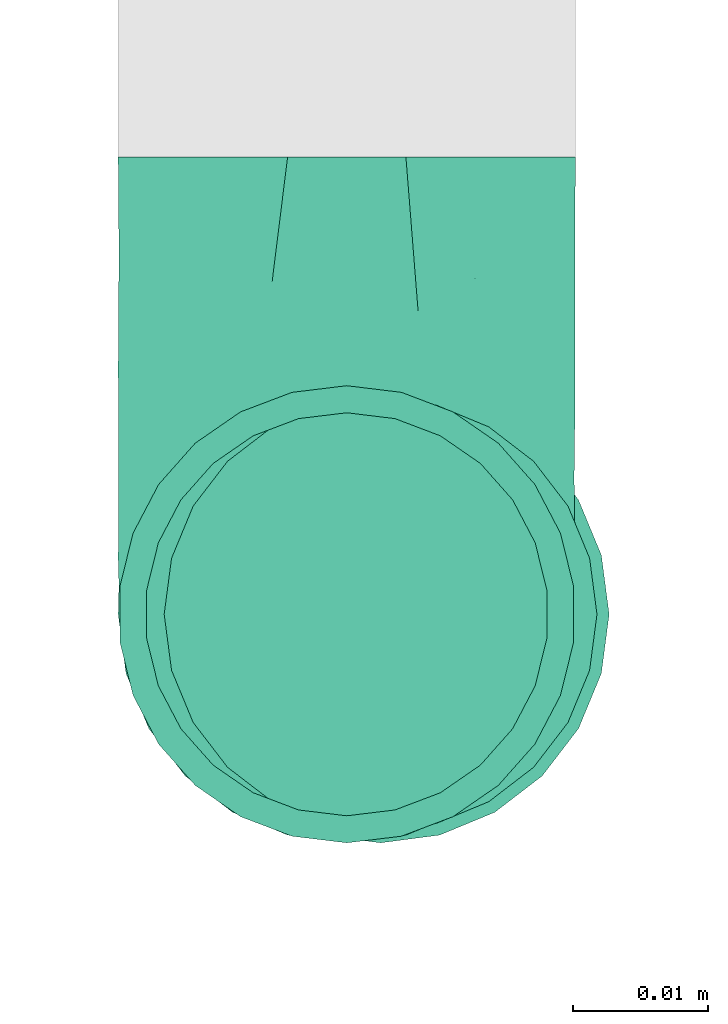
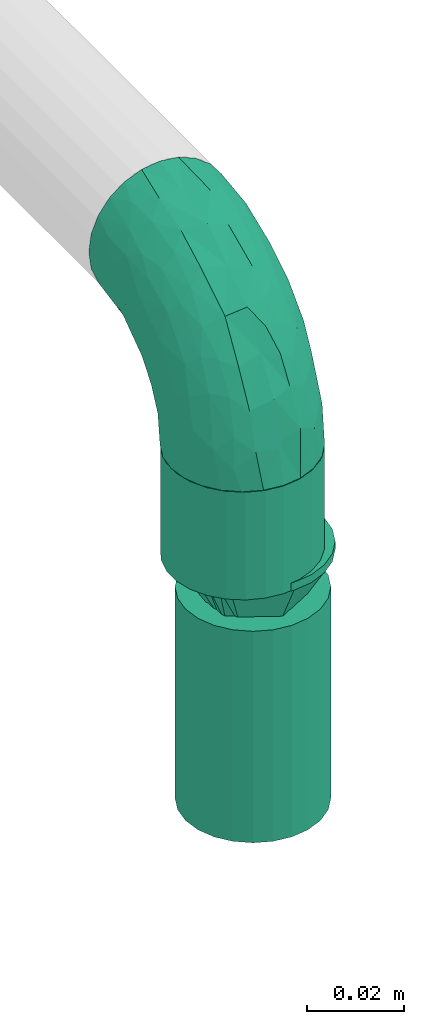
# One storey, part 7 of 32: 2 flow fittings, 1 flow segment, 1 flow terminal.
"""IFC2X3 building model written with IfcOpenShell, lengths in millimetres."""

from ifc_helpers import new_model, entity, si_unit, converted_unit, derived_unit, direction, frame, origin_with_axes, origin_2d_with_axis, place, context, subcontext, project, spatial, hollow_circle, extrude, open_shell, surface_model, source, transform, mapped, type_object, element, save


model = new_model("IFC2X3")

# Units and contexts
model_context = context("Model", 3, precision=0.01, world=frame((0.0, 4.29681676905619e-09, 0.0)), true_north=direction((4.01073788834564e-13, 1.0)))
plan_context = context("Plan", 3, precision=0.01, world=frame((0.0, 4.29681676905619e-09, 0.0)), true_north=direction((4.01073788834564e-13, 1.0)))
body_context = subcontext(model_context, "Body", "Model", "MODEL_VIEW")
ifc_project = project(units=[converted_unit("PLANEANGLEUNIT", "DEGREE", entity("IfcPositiveLengthMeasure", 0.0174532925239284), si_unit("PLANEANGLEUNIT", "RADIAN"), dimensions=[0, 0, 0, 0, 0, 0, 0]), si_unit("AREAUNIT", "SQUARE_METRE"), si_unit("LENGTHUNIT", "METRE", prefix="MILLI"), si_unit("MASSUNIT", "GRAM", prefix="KILO"), si_unit("POWERUNIT", "WATT"), si_unit("PRESSUREUNIT", "PASCAL", prefix="KILO"), si_unit("FORCEUNIT", "NEWTON", prefix="KILO"), si_unit("ELECTRICVOLTAGEUNIT", "VOLT"), si_unit("ELECTRICCURRENTUNIT", "AMPERE"), si_unit("THERMODYNAMICTEMPERATUREUNIT", "DEGREE_CELSIUS"), si_unit("TIMEUNIT", "SECOND"), si_unit("VOLUMEUNIT", "CUBIC_METRE"), derived_unit("LINEARVELOCITYUNIT", [(si_unit("LENGTHUNIT", "METRE"), 1), (si_unit("TIMEUNIT", "SECOND"), -1)]), derived_unit("VOLUMETRICFLOWRATEUNIT", [(si_unit("VOLUMEUNIT", "CUBIC_METRE"), 1), (si_unit("TIMEUNIT", "SECOND"), -1)]), derived_unit("THERMALTRANSMITTANCEUNIT", [(si_unit("POWERUNIT", "WATT"), 1), (si_unit("THERMODYNAMICTEMPERATUREUNIT", "KELVIN"), -1), (si_unit("AREAUNIT", "SQUARE_METRE"), -1)]), derived_unit("SOUNDPRESSUREUNIT", [(si_unit("PRESSUREUNIT", "PASCAL"), 1)])], contexts=[model_context, plan_context])

# Site, building, storey
site_placement = place(None, frame((0.0, -4.29681676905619e-09, 0.0), z_axis=(0.0, 0.0, 1.0), x_axis=(1.0, 0.0, 0.0)))
site = spatial("IfcSite", under=ifc_project, at=site_placement, CompositionType="ELEMENT")
building_placement = place(site_placement, frame((0.0, 4.29681676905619e-09, 0.0), z_axis=(0.0, 0.0, 1.0), x_axis=(1.0, 0.0, 0.0)))
building = spatial("IfcBuilding", under=site, at=building_placement, Name="mc-building", CompositionType="ELEMENT")
storey_placement = place(building_placement, frame((0.0, 0.0, 205200.0), z_axis=(0.0, 0.0, 1.0), x_axis=(1.0, 0.0, 0.0)))
storey = spatial("IfcBuildingStorey", under=building, at=storey_placement, Name="Nivå D + 1,2 m", CompositionType="ELEMENT", Elevation=205200.0)

# Flow fittings
pipe_fitting_type_1 = type_object("IfcPipeFittingType", Name="magi_pipe_fe_elbow_short_001", PredefinedType="BEND")
shared_shape_1 = source(origin_with_axes(), body_context, "Body", "SurfaceModel", [
    surface_model("IfcShellBasedSurfaceModel", [(-33.8, -11.9501, -11.9501), (-33.8, -14.63583, -8.45), (-33.8, -8.45, -14.63583), (-33.8, 0.0, -16.9), (-33.8, -4.37404, -16.32415), (-33.8, -16.32415, -4.37404), (-33.8, -16.9, 0.0), (-33.8, 11.9501, 11.9501), (-33.8, 14.63583, 8.45), (-33.8, 8.45, 14.63583), (-33.8, -11.9501, 11.9501), (-33.8, -8.45, 14.63583), (-33.8, -14.63583, 8.45), (-33.8, -16.32415, 4.37404), (-33.8, -4.37404, 16.32415), (-33.8, 0.0, 16.9), (-33.8, 16.9, 0.0), (-33.8, 16.32415, -4.37404), (-33.8, 16.32415, 4.37404), (-33.8, 4.37404, -16.32415), (-33.8, 8.45, -14.63583), (-33.8, 14.63583, -8.45), (-33.8, 11.9501, -11.9501), (-33.8, 4.37404, 16.32415), (-4.37404, 33.8, -16.32415), (16.9, 33.8, 0.0), (0.0, 33.8, -16.9), (-16.32415, 33.8, -4.37404), (-8.45, 33.8, -14.63583), (-14.63583, 33.8, -8.45), (-11.9501, 33.8, -11.9501), (16.32415, 33.8, 4.37404), (8.45, 33.8, -14.63583), (14.63583, 33.8, -8.45), (11.9501, 33.8, -11.9501), (4.37404, 33.8, -16.32415), (16.32415, 33.8, -4.37404), (-16.32415, 33.8, 4.37404), (-4.37404, 33.8, 16.32415), (-14.63583, 33.8, 8.45), (-8.45, 33.8, 14.63583), (-11.9501, 33.8, 11.9501), (14.63583, 33.8, 8.45), (8.45, 33.8, 14.63583), (11.9501, 33.8, 11.9501), (0.0, 33.8, 16.9), (4.37404, 33.8, 16.32415), (-16.9, 33.8, 0.0), (-24.79389, -13.12945, 9.48721), (-22.19287, -9.75018, 12.59315), (-24.09897, -14.97035, 0.0), (-14.93934, -10.76256, 8.5297), (-22.46095, -14.75051, 5.27077), (14.75051, 22.46094, 5.27077), (11.9251, 13.23888, 4.33236), (13.04069, 14.39795, 0.0), (7.71387, 13.68847, 11.55891), (9.75018, 22.19287, 12.59315), (4.10169, 13.0571, 14.04018), (-24.84007, -6.39063, 15.2048), (-25.81779, -2.23879, 16.61097), (-23.66549, 2.59054, 16.87119), (-26.50418, 14.06512, 11.08152), (-24.21253, 17.66365, 7.72657), (-29.58514, 15.86957, 7.00283), (-6.17382, -7.5455, 0.0), (-13.23888, -11.9251, 4.33236), (-14.39795, -13.04069, 0.0), (-17.81434, 18.87373, 11.97104), (-6.30846, 29.15138, 15.82987), (-2.31622, 25.28002, 16.85849), (-29.23923, 10.23435, 13.77053), (-1.45439, -2.85688, 7.61475), (-0.28326, 0.34872, 10.09509), (-5.74484, -4.04709, 10.4122), (-4.41137, 11.31918, 16.59407), (-8.39727, 3.10034, 15.7812), (-1.72649, 9.1306, 15.53089), (-17.39909, 24.75344, 7.64977), (-26.19233, 20.0512, 0.0), (-28.14518, 17.29657, 4.25857), (-26.05147, 6.6281, 15.96447), (-5.87354, 16.61944, 16.86968), (-12.51807, 12.51807, 16.48937), (-10.06312, 7.38516, 16.81295), (-3.01882, 3.01882, 13.81718), (-13.0571, -4.10169, 14.04018), (-16.82553, -0.15166, 16.38038), (10.76256, 14.93934, 8.5297), (13.12945, 24.79389, 9.48721), (6.39063, 24.84007, 15.2048), (2.23879, 25.81779, 16.61097), (-13.68847, -7.71387, 11.55891), (14.97035, 24.09897, 0.0), (-7.30894, 22.89991, 16.09489), (-10.67958, 26.17414, 14.008), (-12.78295, 18.26924, 15.06066), (-13.88562, 22.45231, 12.93244), (-18.04944, 15.16501, 14.04434), (-23.11658, 20.08178, 4.02986), (-21.84989, 21.84989, 0.0), (-18.55817, 25.48277, 3.93065), (-13.95142, 26.94732, 11.03289), (-18.57098, 7.23906, 16.59756), (-16.58335, 4.14122, 16.89279), (-17.96666, 11.46709, 15.63151), (-9.84453, 17.54304, 16.18938), (0.15166, 16.82553, 16.38038), (-23.27207, 11.47201, 14.23154), (3.84842, 5.86994, 10.70473), (-8.0212, -7.54413, 7.93275), (1.00345, -2.19508, 4.57414), (5.13203, 3.01004, 5.90201), (5.24161, 1.7543, 2.53265), (8.70457, 7.04947, 3.99182), (-20.0512, 26.19233, 0.0), (8.4852, 8.76699, 7.09296), (-4.55488, -6.72064, 4.90681), (2.05031, -2.05031, 0.0), (7.5455, 6.17382, 0.0), (-26.75399, 2.1369, -16.845), (-14.61995, 24.73803, -11.27736), (-28.45274, -13.45335, -9.81895), (-26.00469, 6.63555, -15.96645), (-23.06726, 20.04573, -4.26202), (-13.80647, -4.26506, -14.17873), (-14.67501, -0.21081, -16.07388), (-6.7902, -0.2828, -13.8478), (-24.53586, 11.08096, -14.13417), (-26.72048, 14.00837, -11.05776), (10.0967, 24.44989, -12.75976), (5.83237, 21.40218, -15.03047), (6.66249, 28.54238, -15.38093), (-20.38182, 15.48705, -12.74596), (12.53268, 21.23441, -9.15363), (12.54494, 15.67504, -5.54878), (9.7522, 12.89279, -8.66343), (-15.65186, 19.64213, -13.01327), (-12.03528, 20.66498, -14.67665), (-15.61907, 15.61906, -14.83879), (-25.56551, -15.26206, 0.0), (-24.65452, -15.12934, -5.50955), (13.45335, 28.45274, -9.81895), (15.12934, 24.65452, -5.50955), (-7.35442, -8.31014, -5.65563), (-15.67504, -12.54494, -5.54878), (-24.44989, -10.0967, -12.75976), (0.16522, 0.41303, -9.71728), (-5.70658, -5.33066, -8.89288), (-5.13869, -2.37198, -11.53565), (-21.23441, -12.53268, -9.15363), (0.71146, 7.93863, -14.09382), (0.21081, 14.67501, -16.07388), (3.49291, 14.42772, -14.76381), (-24.89911, -2.13088, -16.591), (-28.54238, -6.66249, -15.38093), (-18.44386, -7.71663, -13.26957), (2.13088, 24.89911, -16.591), (-28.64342, 17.44413, -2.89318), (1.70017, -1.28722, -5.09504), (-16.57067, 26.81947, -7.36596), (-17.69055, 27.4263, -3.76405), (-12.89279, -9.7522, -8.66343), (-5.96611, 5.96611, -15.95814), (-20.53709, 20.09345, -8.28985), (-2.1369, 26.75399, -16.845), (-6.89872, 24.58781, -16.02578), (-10.60739, 26.53157, -13.98044), (-21.40218, -5.83237, -15.03047), (2.93192, 5.89627, -11.55917), (6.89393, 12.61842, -11.82233), (5.58056, 5.95325, -8.79455), (-3.99512, 18.61798, -16.89635), (8.31014, 7.35442, -5.65563), (-9.1383, 9.86148, -16.89041), (-9.99983, 16.02119, -16.39699), (-16.68576, 9.78031, -16.34199), (-27.01915, 16.61158, -7.12979), (15.26206, 25.56551, 0.0), (-18.61798, 3.99512, -16.89635), (-19.37495, 27.82495, 0.0), (-12.61842, -6.89393, -11.82233), (-18.84705, 19.14018, -10.96545)], [open_shell([[[0, 1, 2]], [[3, 4, 2]], [[5, 6, 1]], [[7, 8, 9]], [[10, 11, 12]], [[13, 12, 11]], [[14, 15, 11]], [[16, 17, 18]], [[3, 6, 19]], [[20, 19, 17]], [[20, 17, 21]], [[22, 20, 21]], [[17, 19, 6]], [[2, 1, 6]], [[2, 6, 3]], [[6, 18, 17]], [[23, 18, 6]], [[8, 18, 23]], [[8, 23, 9]], [[13, 23, 6]], [[23, 13, 11]], [[11, 15, 23]], [[24, 25, 26]], [[27, 24, 28]], [[29, 27, 28]], [[29, 28, 30]], [[31, 25, 24]], [[32, 33, 34]], [[32, 35, 26]], [[33, 25, 36]], [[33, 32, 26]], [[25, 33, 26]], [[24, 27, 37]], [[31, 24, 37]], [[38, 37, 39]], [[40, 38, 39]], [[40, 39, 41]], [[31, 37, 38]], [[42, 43, 44]], [[43, 42, 31]], [[43, 45, 46]], [[43, 31, 38]], [[38, 45, 43]], [[37, 27, 47]], [[10, 48, 49]], [[13, 6, 50]], [[51, 48, 52]], [[53, 54, 55]], [[48, 10, 12]], [[13, 52, 12]], [[56, 57, 58]], [[49, 11, 10]], [[49, 59, 11]], [[15, 60, 61]], [[62, 63, 64]], [[65, 66, 67]], [[57, 44, 43]], [[62, 68, 63]], [[38, 69, 70]], [[9, 71, 7]], [[14, 60, 15]], [[72, 73, 74]], [[75, 76, 77]], [[7, 62, 8]], [[39, 37, 78]], [[79, 16, 80]], [[64, 18, 8]], [[15, 61, 23]], [[23, 81, 9]], [[82, 83, 84]], [[74, 85, 86]], [[59, 86, 87]], [[88, 89, 57]], [[90, 43, 46]], [[42, 53, 31]], [[46, 45, 91]], [[54, 53, 88]], [[42, 89, 53]], [[92, 86, 49]], [[89, 42, 44]], [[11, 59, 14]], [[53, 55, 93]], [[93, 31, 53]], [[66, 52, 67]], [[94, 82, 70]], [[95, 96, 94]], [[97, 98, 96]], [[79, 99, 100]], [[40, 41, 95]], [[101, 100, 99]], [[68, 78, 63]], [[38, 40, 69]], [[16, 18, 80]], [[95, 94, 69]], [[78, 101, 99]], [[41, 102, 95]], [[70, 45, 38]], [[97, 95, 102]], [[13, 50, 52]], [[90, 57, 43]], [[57, 90, 58]], [[81, 23, 61]], [[103, 104, 84]], [[105, 81, 103]], [[41, 39, 102]], [[106, 96, 83]], [[94, 106, 82]], [[91, 70, 107]], [[71, 62, 7]], [[62, 108, 98]], [[86, 59, 49]], [[67, 52, 50]], [[60, 59, 87]], [[92, 49, 51]], [[86, 85, 76]], [[91, 90, 46]], [[25, 31, 93]], [[107, 77, 58]], [[107, 58, 90]], [[58, 85, 109]], [[110, 74, 92]], [[72, 74, 110]], [[66, 51, 52]], [[72, 111, 112]], [[113, 114, 112]], [[56, 88, 57]], [[52, 48, 12]], [[49, 48, 51]], [[57, 89, 44]], [[53, 89, 88]], [[103, 81, 61]], [[71, 81, 108]], [[18, 64, 80]], [[63, 78, 99]], [[47, 115, 101]], [[101, 115, 100]], [[39, 78, 102]], [[68, 102, 78]], [[97, 96, 95]], [[105, 98, 108]], [[103, 84, 83]], [[107, 70, 82]], [[76, 84, 87]], [[82, 84, 75]], [[70, 91, 45]], [[90, 91, 107]], [[59, 60, 14]], [[61, 60, 87]], [[73, 85, 74]], [[109, 112, 116]], [[103, 61, 104]], [[105, 103, 83]], [[96, 105, 83]], [[81, 105, 108]], [[96, 98, 105]], [[62, 98, 68]], [[61, 87, 104]], [[87, 84, 104]], [[86, 76, 87]], [[77, 76, 85]], [[58, 77, 85]], [[75, 77, 107]], [[82, 75, 107]], [[76, 75, 84]], [[81, 71, 9]], [[62, 71, 108]], [[95, 69, 40]], [[70, 69, 94]], [[62, 64, 8]], [[80, 63, 99]], [[63, 80, 64]], [[80, 99, 79]], [[66, 65, 117]], [[110, 66, 117]], [[112, 114, 116]], [[118, 117, 65]], [[110, 92, 51]], [[112, 111, 113]], [[119, 55, 54]], [[74, 86, 92]], [[58, 109, 56]], [[116, 56, 109]], [[66, 110, 51]], [[72, 110, 117]], [[111, 72, 117]], [[73, 112, 109]], [[117, 118, 111]], [[113, 111, 118]], [[118, 119, 113]], [[114, 119, 54]], [[119, 114, 113]], [[116, 54, 88]], [[54, 116, 114]], [[116, 88, 56]], [[112, 73, 72]], [[85, 73, 109]], [[78, 37, 101]], [[47, 101, 37]], [[102, 68, 97]], [[97, 68, 98]], [[82, 106, 83]], [[94, 96, 106]], [[19, 120, 3]], [[29, 30, 121]], [[0, 122, 1]], [[20, 123, 19]], [[100, 124, 79]], [[125, 126, 127]], [[128, 22, 129]], [[130, 131, 132]], [[128, 129, 133]], [[134, 135, 136]], [[137, 138, 139]], [[128, 20, 22]], [[67, 140, 141]], [[134, 142, 143]], [[141, 5, 1]], [[144, 65, 145]], [[146, 0, 2]], [[147, 148, 149]], [[145, 141, 150]], [[151, 152, 153]], [[154, 4, 3]], [[2, 155, 146]], [[150, 146, 156]], [[155, 2, 4]], [[143, 135, 134]], [[35, 157, 26]], [[16, 79, 158]], [[148, 159, 144]], [[160, 161, 27]], [[145, 162, 144]], [[163, 152, 151]], [[27, 29, 160]], [[121, 164, 160]], [[32, 34, 130]], [[26, 165, 24]], [[24, 165, 166]], [[142, 34, 33]], [[30, 28, 167]], [[124, 161, 164]], [[157, 35, 132]], [[155, 154, 168]], [[123, 20, 128]], [[169, 170, 171]], [[172, 157, 152]], [[24, 166, 28]], [[132, 35, 32]], [[142, 130, 34]], [[168, 154, 126]], [[136, 135, 173]], [[133, 137, 139]], [[22, 21, 129]], [[170, 131, 130]], [[33, 36, 143]], [[172, 174, 175]], [[176, 123, 128]], [[158, 177, 17]], [[135, 55, 119]], [[167, 28, 166]], [[175, 166, 172]], [[137, 167, 138]], [[122, 141, 1]], [[140, 6, 5]], [[36, 25, 178]], [[170, 130, 134]], [[152, 157, 131]], [[165, 157, 172]], [[153, 170, 151]], [[152, 163, 174]], [[168, 125, 156]], [[122, 146, 150]], [[120, 154, 3]], [[179, 174, 126]], [[179, 126, 154]], [[126, 163, 127]], [[162, 145, 150]], [[140, 5, 141]], [[36, 178, 143]], [[55, 143, 178]], [[177, 129, 21]], [[128, 133, 139]], [[176, 128, 139]], [[120, 123, 179]], [[121, 160, 29]], [[161, 100, 180]], [[166, 175, 138]], [[121, 30, 167]], [[161, 47, 27]], [[79, 124, 158]], [[124, 164, 177]], [[161, 124, 100]], [[136, 171, 170]], [[127, 163, 151]], [[147, 171, 159]], [[148, 144, 162]], [[127, 151, 169]], [[127, 181, 125]], [[129, 177, 164]], [[21, 17, 177]], [[159, 65, 144]], [[67, 141, 145]], [[143, 55, 135]], [[135, 119, 173]], [[123, 120, 19]], [[154, 120, 179]], [[157, 165, 26]], [[166, 165, 172]], [[172, 152, 174]], [[176, 139, 175]], [[126, 174, 163]], [[176, 174, 179]], [[174, 176, 175]], [[123, 176, 179]], [[150, 181, 162]], [[127, 149, 181]], [[181, 148, 162]], [[159, 148, 147]], [[171, 136, 173]], [[170, 134, 136]], [[159, 171, 173]], [[171, 147, 169]], [[169, 147, 149]], [[151, 170, 169]], [[164, 182, 129]], [[182, 121, 137]], [[181, 149, 148]], [[169, 149, 127]], [[182, 137, 133]], [[167, 137, 121]], [[166, 138, 167]], [[175, 139, 138]], [[129, 182, 133]], [[121, 182, 164]], [[161, 160, 164]], [[47, 161, 180]], [[177, 158, 124]], [[16, 158, 17]], [[130, 132, 32]], [[157, 132, 131]], [[143, 142, 33]], [[130, 142, 134]], [[154, 155, 4]], [[146, 155, 168]], [[146, 122, 0]], [[141, 122, 150]], [[152, 131, 153]], [[159, 119, 118]], [[67, 145, 65]], [[170, 153, 131]], [[119, 159, 173]], [[159, 118, 65]], [[156, 125, 181]], [[126, 125, 168]], [[150, 156, 181]], [[168, 156, 146]]])]),
])
flow_fitting_1_placement = place(storey_placement, frame((329697.5, 460423.43146, 4443.58468999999), z_axis=(1.0, 0.0, 0.0), x_axis=(0.0, -1.0, 0.0)))
element("IfcFlowFitting", 1, at=flow_fitting_1_placement, inside=storey, type_object=pipe_fitting_type_1, Name="magi_pipe_fe_elbow_short_001", context=body_context, shape_type="MappedRepresentation", body=[
    mapped(shared_shape_1, transform((0.0, 0.0, 0.0), scale=1.0)),
])
pipe_fitting_type_2 = type_object("IfcPipeFittingType", Name="magi_pipe_fe_reducer_centric_short_001", PredefinedType="TRANSITION")
shared_shape_2 = source(origin_with_axes(), body_context, "Body", "SurfaceModel", [
    surface_model("IfcShellBasedSurfaceModel", [(-2.0, 11.9501, 11.9501), (-2.0, 0.0, 16.9), (-2.0, 4.37404, 16.32415), (-2.0, 8.45, 14.63583), (-2.0, 14.63583, 8.45), (-2.0, 16.32415, 4.37404), (-2.0, -16.32415, 4.37404), (-2.0, -8.45, 14.63583), (-2.0, -14.63583, 8.45), (-2.0, -11.9501, 11.9501), (-2.0, -4.37404, 16.32415), (-2.0, -16.32415, -4.37404), (-2.0, -16.9, 0.0), (-2.0, -8.45, -14.63583), (-2.0, 16.32415, -4.37404), (-2.0, 11.9501, -11.9501), (-2.0, 14.63583, -8.45), (-2.0, 8.45, -14.63583), (-2.0, 4.37404, -16.32415), (-2.0, 0.0, -16.9), (-2.0, -11.9501, -11.9501), (-2.0, -14.63583, -8.45), (-2.0, -4.37404, -16.32415), (-2.0, 16.9, 0.0), (0.0, 4.37404, -16.32415), (0.0, 8.45, -14.63583), (0.0, 11.9501, -11.9501), (0.0, 0.0, -16.9), (0.0, 16.32415, -4.37404), (0.0, 16.32415, 4.37404), (0.0, 14.63583, -8.45), (0.0, -8.45, -14.63583), (0.0, -4.37404, -16.32415), (0.0, -11.9501, -11.9501), (0.0, -16.32415, -4.37404), (0.0, -14.63583, -8.45), (0.0, -16.32415, 4.37404), (0.0, 16.9, 0.0), (0.0, 14.63583, 8.45), (0.0, 11.9501, 11.9501), (0.0, 4.37404, 16.32415), (0.0, 8.45, 14.63583), (0.0, 0.0, 16.9), (0.0, -14.63583, 8.45), (0.0, -16.9, 0.0), (0.0, -8.45, 14.63583), (0.0, -11.9501, 11.9501), (0.0, -4.37404, 16.32415), (14.4, 5.35, -9.26647), (14.4, 0.0, -10.7), (14.4, 2.76936, -10.33541), (14.4, 10.33541, -2.76936), (14.4, 7.56604, -7.56604), (14.4, -5.35, -9.26647), (14.4, 9.26647, -5.35), (14.4, -9.26647, 5.35), (14.4, -2.76936, -10.33541), (14.4, -7.56604, -7.56604), (14.4, -10.33541, -2.76936), (14.4, -9.26647, -5.35), (14.4, 10.33541, 2.76936), (14.4, 10.7, 0.0), (14.4, 9.26647, 5.35), (14.4, 7.56604, 7.56604), (14.4, 2.76936, 10.33541), (14.4, 0.0, 10.7), (14.4, 5.35, 9.26647), (14.4, -10.33541, 2.76936), (14.4, -10.7, 0.0), (14.4, -7.56604, 7.56604), (14.4, -2.76936, 10.33541), (14.4, -5.35, 9.26647), (12.4, 0.0, 10.7), (12.4, 2.76936, 10.33541), (12.4, 5.35, 9.26647), (12.4, 7.56604, 7.56604), (12.4, 9.26647, 5.35), (12.4, 10.33541, 2.76936), (12.4, -10.33541, 2.76936), (12.4, 10.33541, -2.76936), (12.4, -2.76936, 10.33541), (12.4, -7.56604, 7.56604), (12.4, -5.35, 9.26647), (12.4, -9.26647, 5.35), (12.4, -10.33541, -2.76936), (12.4, -10.7, 0.0), (12.4, 2.76936, -10.33541), (12.4, 9.26647, -5.35), (12.4, 7.56604, -7.56604), (12.4, 5.35, -9.26647), (12.4, -7.56604, -7.56604), (12.4, -9.26647, -5.35), (12.4, -5.35, -9.26647), (12.4, 0.0, -10.7), (12.4, -2.76936, -10.33541), (12.4, 10.7, 0.0), (12.4, 9.3625, -2.31662), (0.0, 14.42505, -5.97505), (0.0, 15.66253, -2.98753), (12.4, -6.6875, -6.94985), (0.0, -13.18758, -8.96258), (0.0, 2.98753, -15.66253), (12.4, 0.0, -9.26647), (12.4, 6.6875, -6.94985), (0.0, 8.96258, -13.18758), (12.4, -9.3625, -2.31662), (0.0, -15.66253, -2.98753), (0.0, -14.42505, -5.97505), (0.0, 5.97505, -14.42505), (0.0, -2.98753, -15.66253), (0.0, -8.96258, -13.18758), (0.0, 13.18758, -8.96258), (12.4, 8.025, -4.63324), (12.4, -2.675, -9.26647), (12.4, 2.675, -9.26647), (0.0, -5.97505, -14.42505), (12.4, -8.025, -4.63324), (12.4, -9.3625, 2.31662), (0.0, -14.42505, 5.97505), (0.0, -15.66253, 2.98753), (12.4, 6.6875, 6.94985), (0.0, 13.18758, 8.96258), (0.0, -2.98753, 15.66253), (12.4, 0.0, 9.26647), (12.4, -6.6875, 6.94985), (0.0, -8.96258, 13.18758), (12.4, 9.3625, 2.31662), (0.0, 15.66253, 2.98753), (0.0, 14.42505, 5.97505), (0.0, -5.97505, 14.42505), (0.0, 2.98753, 15.66253), (0.0, 8.96258, 13.18758), (0.0, -13.18758, 8.96258), (12.4, -8.025, 4.63324), (12.4, 2.675, 9.26647), (12.4, -2.675, 9.26647), (0.0, 5.97505, 14.42505), (12.4, 8.025, 4.63324)], [open_shell([[[0, 1, 2]], [[0, 2, 3]], [[0, 4, 5]], [[0, 5, 1]], [[1, 5, 6]], [[7, 8, 9]], [[7, 10, 1]], [[8, 7, 1]], [[1, 6, 8]], [[6, 11, 12]], [[6, 5, 13]], [[5, 14, 15]], [[15, 14, 16]], [[15, 17, 18]], [[13, 5, 15]], [[19, 15, 18]], [[11, 20, 21]], [[20, 11, 13]], [[13, 19, 22]], [[11, 6, 13]], [[15, 19, 13]], [[5, 23, 14]], [[24, 25, 26]], [[27, 24, 26]], [[26, 28, 29]], [[28, 26, 30]], [[26, 29, 31]], [[27, 31, 32]], [[27, 26, 31]], [[33, 34, 35]], [[34, 33, 31]], [[31, 36, 34]], [[29, 28, 37]], [[29, 38, 39]], [[29, 39, 40]], [[40, 36, 31]], [[40, 39, 41]], [[36, 40, 42]], [[42, 43, 36]], [[44, 34, 36]], [[43, 45, 46]], [[43, 42, 45]], [[45, 42, 47]], [[31, 29, 40]], [[11, 34, 12]], [[21, 35, 11]], [[31, 20, 13]], [[21, 20, 33]], [[32, 13, 22]], [[11, 35, 34]], [[34, 44, 12]], [[32, 31, 13]], [[33, 20, 31]], [[33, 35, 21]], [[27, 32, 22]], [[22, 19, 27]], [[18, 24, 19]], [[17, 25, 18]], [[30, 15, 16]], [[17, 15, 26]], [[28, 16, 14]], [[17, 26, 25]], [[25, 24, 18]], [[37, 28, 14]], [[30, 16, 28]], [[30, 26, 15]], [[23, 37, 14]], [[19, 24, 27]], [[5, 29, 23]], [[4, 38, 5]], [[41, 0, 3]], [[4, 0, 39]], [[40, 3, 2]], [[5, 38, 29]], [[29, 37, 23]], [[40, 41, 3]], [[39, 0, 41]], [[39, 38, 4]], [[42, 40, 2]], [[2, 1, 42]], [[10, 47, 1]], [[7, 45, 10]], [[43, 9, 8]], [[7, 9, 46]], [[36, 8, 6]], [[7, 46, 45]], [[45, 47, 10]], [[44, 36, 6]], [[43, 8, 36]], [[43, 46, 9]], [[12, 44, 6]], [[1, 47, 42]], [[33, 44, 27]], [[48, 49, 50]], [[51, 48, 52]], [[53, 48, 51]], [[51, 52, 54]], [[55, 53, 51]], [[49, 53, 56]], [[49, 48, 53]], [[57, 58, 59]], [[58, 57, 53]], [[53, 55, 58]], [[60, 51, 61]], [[60, 62, 63]], [[51, 63, 55]], [[64, 65, 63]], [[64, 63, 66]], [[55, 63, 65]], [[58, 67, 68]], [[55, 67, 58]], [[69, 70, 71]], [[70, 69, 55]], [[65, 70, 55]], [[51, 60, 63]], [[72, 73, 74]], [[72, 74, 75]], [[75, 76, 77]], [[72, 75, 78]], [[79, 78, 75]], [[80, 81, 82]], [[81, 80, 78]], [[81, 78, 83]], [[80, 72, 78]], [[78, 84, 85]], [[79, 75, 77]], [[84, 78, 79]], [[86, 79, 87]], [[88, 89, 86]], [[88, 86, 87]], [[84, 79, 86]], [[84, 90, 91]], [[90, 84, 92]], [[92, 93, 94]], [[92, 84, 86]], [[86, 93, 92]], [[79, 77, 95]], [[84, 58, 85]], [[91, 59, 84]], [[53, 90, 92]], [[91, 90, 57]], [[56, 92, 94]], [[84, 59, 58]], [[58, 68, 85]], [[56, 53, 92]], [[57, 90, 53]], [[57, 59, 91]], [[49, 56, 94]], [[94, 93, 49]], [[86, 50, 93]], [[89, 48, 86]], [[54, 88, 87]], [[89, 88, 52]], [[51, 87, 79]], [[89, 52, 48]], [[48, 50, 86]], [[61, 51, 79]], [[54, 87, 51]], [[54, 52, 88]], [[95, 61, 79]], [[93, 50, 49]], [[77, 60, 95]], [[76, 62, 77]], [[66, 75, 74]], [[76, 75, 63]], [[64, 74, 73]], [[77, 62, 60]], [[60, 61, 95]], [[64, 66, 74]], [[63, 75, 66]], [[63, 62, 76]], [[65, 64, 73]], [[73, 72, 65]], [[80, 70, 72]], [[82, 71, 80]], [[55, 81, 83]], [[82, 81, 69]], [[67, 83, 78]], [[82, 69, 71]], [[71, 70, 80]], [[68, 67, 78]], [[55, 83, 67]], [[55, 69, 81]], [[85, 68, 78]], [[72, 70, 65]], [[74, 82, 95]], [[95, 82, 92]], [[92, 89, 95]], [[92, 82, 85]], [[42, 39, 44]], [[44, 46, 42]], [[39, 26, 44]], [[27, 44, 26]], [[26, 39, 37]], [[96, 97, 98]], [[33, 99, 100]], [[101, 102, 27]], [[98, 37, 95]], [[26, 103, 104]], [[104, 103, 89]], [[105, 106, 107]], [[89, 108, 104]], [[102, 109, 27]], [[110, 99, 33]], [[95, 96, 98]], [[103, 111, 112]], [[109, 102, 113]], [[85, 44, 106]], [[102, 101, 114]], [[110, 115, 92]], [[96, 112, 97]], [[107, 116, 105]], [[85, 106, 105]], [[113, 115, 109]], [[92, 115, 113]], [[116, 107, 100]], [[108, 89, 114]], [[111, 103, 26]], [[111, 97, 112]], [[99, 110, 92]], [[116, 100, 99]], [[101, 108, 114]], [[117, 118, 119]], [[39, 120, 121]], [[122, 123, 42]], [[119, 44, 85]], [[46, 124, 125]], [[125, 124, 82]], [[126, 127, 128]], [[82, 129, 125]], [[123, 130, 42]], [[131, 120, 39]], [[85, 117, 119]], [[124, 132, 133]], [[130, 123, 134]], [[95, 37, 127]], [[123, 122, 135]], [[131, 136, 74]], [[117, 133, 118]], [[128, 137, 126]], [[95, 127, 126]], [[134, 136, 130]], [[74, 136, 134]], [[137, 128, 121]], [[129, 82, 135]], [[132, 124, 46]], [[132, 118, 133]], [[120, 131, 74]], [[137, 121, 120]], [[122, 129, 135]]])]),
])
flow_fitting_2_placement = place(storey_placement, frame((329700.0, 460423.43146, 4382.78346000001), z_axis=(1.0, 0.0, 0.0), x_axis=(0.0, 0.0, -1.0)))
element("IfcFlowFitting", 2, at=flow_fitting_2_placement, inside=storey, type_object=pipe_fitting_type_2, Name="magi_pipe_fe_reducer_centric_short_001", context=body_context, shape_type="MappedRepresentation", body=[
    mapped(shared_shape_2, transform((0.0, 0.0, 0.0), scale=1.0)),
])

# Flow segment
pipe_segment_type = type_object("IfcPipeSegmentType", Name="Stålrør normaltykke", PredefinedType="RIGIDSEGMENT")
shared_shape_3 = source(origin_with_axes(), body_context, "Body", "SweptSolid", [
    extrude(hollow_circle(Radius=16.9, WallThickness=2.0, at=origin_2d_with_axis()), frame((0.0, 0.0, 0.0), z_axis=(1.0, 0.0, 0.0), x_axis=(0.0, 1.0, 0.0)), (0.0, 0.0, 1.0), 27.0),
])
flow_segment_placement = place(storey_placement, frame((329697.5, 460423.43146, 4409.78469), z_axis=(-1.0, 0.0, 0.0), x_axis=(0.0, 0.0, -1.0)))
element("IfcFlowSegment", 3, at=flow_segment_placement, inside=storey, type_object=pipe_segment_type, Name="Stålrør normaltykke", context=body_context, shape_type="MappedRepresentation", body=[
    mapped(shared_shape_3, transform((0.0, 0.0, 0.0), scale=1.0)),
])

# Flow terminal
fire_suppression_terminal_type = type_object("IfcFireSuppressionTerminalType", Name="SP-15-K80-68DGR-STD-NEDOVER", PredefinedType="NOTDEFINED")
shared_shape_4 = source(origin_with_axes(), body_context, "Body", "SurfaceModel", [
    surface_model("IfcShellBasedSurfaceModel", [(4.1411, -15.45481, 53.0), (8.0, -13.85641, 53.0), (11.31371, -11.31371, 53.0), (-8.0, -13.85641, 53.0), (15.45481, -4.1411, 53.0), (16.0, 0.0, 53.0), (13.85641, -8.0, 53.0), (0.0, -16.0, 53.0), (-4.1411, -15.45481, 53.0), (-13.85641, -8.0, 53.0), (-11.31371, -11.31371, 53.0), (-15.45481, -4.1411, 53.0), (15.45481, 4.1411, 53.0), (13.85641, 8.0, 53.0), (11.31371, 11.31371, 53.0), (-4.1411, 15.45481, 53.0), (8.0, 13.85641, 53.0), (4.1411, 15.45481, 53.0), (0.0, 16.0, 53.0), (-13.85641, 8.0, 53.0), (-15.45481, 4.1411, 53.0), (-16.0, 0.0, 53.0), (-11.31371, 11.31371, 53.0), (-8.0, 13.85641, 53.0), (0.0, 16.0, 0.0), (4.1411, 15.45481, 0.0), (8.0, 13.85641, 0.0), (-4.1411, 15.45481, 0.0), (11.31371, 11.31371, 0.0), (13.85641, 8.0, 0.0), (15.45481, 4.1411, 0.0), (-15.45481, -4.1411, 0.0), (-11.31371, 11.31371, 0.0), (-8.0, 13.85641, 0.0), (-13.85641, 8.0, 0.0), (-15.45481, 4.1411, 0.0), (-16.0, 0.0, 0.0), (4.1411, -15.45481, 0.0), (16.0, 0.0, 0.0), (15.45481, -4.1411, 0.0), (13.85641, -8.0, 0.0), (11.31371, -11.31371, 0.0), (8.0, -13.85641, 0.0), (-8.0, -13.85641, 0.0), (-13.85641, -8.0, 0.0), (-11.31371, -11.31371, 0.0), (0.0, -16.0, 0.0), (-4.1411, -15.45481, 0.0)], [open_shell([[[0, 1, 2]], [[3, 0, 2]], [[4, 5, 2]], [[4, 2, 6]], [[3, 2, 5]], [[7, 3, 8]], [[7, 0, 3]], [[3, 9, 10]], [[9, 3, 11]], [[5, 11, 3]], [[5, 12, 11]], [[12, 13, 14]], [[15, 12, 14]], [[16, 17, 18]], [[14, 16, 15]], [[18, 15, 16]], [[11, 19, 20]], [[21, 11, 20]], [[22, 15, 23]], [[15, 22, 19]], [[19, 11, 15]], [[11, 12, 15]], [[24, 25, 26]], [[27, 24, 26]], [[28, 29, 30]], [[27, 26, 28]], [[27, 28, 31]], [[27, 32, 33]], [[32, 27, 34]], [[34, 31, 35]], [[31, 34, 27]], [[35, 31, 36]], [[28, 30, 31]], [[37, 38, 39]], [[37, 39, 40]], [[41, 42, 37]], [[41, 37, 40]], [[38, 37, 43]], [[44, 43, 45]], [[43, 44, 31]], [[43, 46, 47]], [[43, 31, 38]], [[37, 46, 43]], [[38, 31, 30]], [[11, 31, 44]], [[45, 9, 44]], [[3, 43, 47]], [[45, 43, 10]], [[8, 47, 46]], [[31, 21, 36]], [[31, 11, 21]], [[44, 9, 11]], [[45, 10, 9]], [[3, 10, 43]], [[47, 8, 3]], [[46, 7, 8]], [[0, 37, 42]], [[41, 1, 42]], [[6, 40, 39]], [[41, 40, 2]], [[4, 39, 38]], [[37, 0, 7]], [[42, 1, 0]], [[41, 2, 1]], [[40, 6, 2]], [[4, 6, 39]], [[38, 5, 4]], [[37, 7, 46]], [[12, 38, 30]], [[13, 30, 29]], [[16, 26, 25]], [[17, 25, 24]], [[30, 13, 12]], [[12, 5, 38]], [[28, 14, 13]], [[28, 26, 14]], [[14, 26, 16]], [[25, 17, 16]], [[28, 13, 29]], [[24, 18, 17]], [[15, 27, 33]], [[32, 23, 33]], [[19, 34, 35]], [[32, 34, 22]], [[20, 35, 36]], [[27, 15, 18]], [[33, 23, 15]], [[32, 22, 23]], [[34, 19, 22]], [[20, 19, 35]], [[36, 21, 20]], [[27, 18, 24]]])]),
])
flow_terminal_placement = place(storey_placement, frame((329700.0, 460423.43146, 4373.43145999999), z_axis=(0.0, 0.0, -1.0), x_axis=(1.0, 0.0, 0.0)))
element("IfcFlowTerminal", 4, at=flow_terminal_placement, inside=storey, type_object=fire_suppression_terminal_type, Name="SP-15-K80-68DGR-STD-NEDOVER", context=body_context, shape_type="MappedRepresentation", body=[
    mapped(shared_shape_4, transform((0.0, 0.0, 0.0), scale=1.0)),
])

save(model, "model.ifc")
